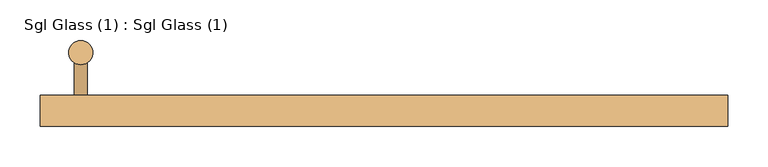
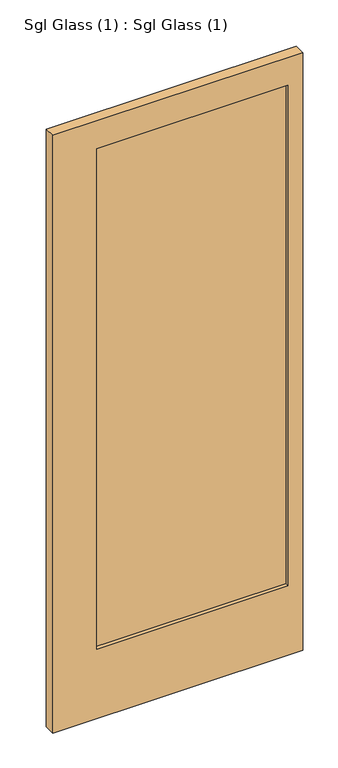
"""IFC4 building model written with IfcOpenShell, lengths in millimetres: door geometry, Sgl Glass (1) : Sgl Glass (1)."""

from ifc_helpers import new_model, si_unit, point, frame, frame_2d, origin, place, context, project, spatial, polyline, circle_curve, trimmed, segment, composite_curve, outline, extrude, source, transform, mapped, element, save


def sgl_glass_1_sgl_glass_1_6551031a(model_context):
    return source(origin(), model_context, "Body", "SweptSolid", [
        extrude(outline(polyline([(375.0, -2.0), (375.0, -12.0), (-350.0, -12.0), (-350.0, -2.0), (375.0, -2.0)])), frame((0.0, 0.0, 250.0), z_axis=(0.0, 0.0, 1.0), x_axis=(1.0, 0.0, 0.0)), (0.0, 0.0, 1.0), 1800.0),
        extrude(outline(composite_curve([segment(trimmed(circle_curve(frame_2d((-375.0, 66.0)), 15.0), [point((-375.0, 51.0))], [point((-375.0, 81.0))], False, "CARTESIAN"), True, "CONTINUOUS"), segment(trimmed(circle_curve(frame_2d((-375.0, 66.0)), 15.0), [point((-375.0, 81.0))], [point((-375.0, 51.0))], False, "CARTESIAN"), True, "CONTINUOUS")], self_intersect=False)), frame((0.0, 0.0, 650.0), z_axis=(0.0, 0.0, 1.0), x_axis=(1.0, 0.0, 0.0)), (0.0, 0.0, 1.0), 900.0),
        extrude(outline(composite_curve([segment(trimmed(circle_curve(frame_2d((750.0, -375.0)), 8.0), [point((750.0, -367.0))], [point((750.0, -383.0))], False, "CARTESIAN"), True, "CONTINUOUS"), segment(trimmed(circle_curve(frame_2d((750.0, -375.0)), 8.0), [point((750.0, -383.0))], [point((750.0, -367.0))], False, "CARTESIAN"), True, "CONTINUOUS")], self_intersect=False)), frame((0.0, 13.0, 0.0), z_axis=(0.0, 1.0, 0.0), x_axis=(0.0, 0.0, 1.0)), (0.0, 0.0, 1.0), 53.0),
        extrude(outline(composite_curve([segment(trimmed(circle_curve(frame_2d((1450.0, -375.0)), 8.0), [point((1450.0, -367.0))], [point((1450.0, -383.0))], False, "CARTESIAN"), True, "CONTINUOUS"), segment(trimmed(circle_curve(frame_2d((1450.0, -375.0)), 8.0), [point((1450.0, -383.0))], [point((1450.0, -367.0))], False, "CARTESIAN"), True, "CONTINUOUS")], self_intersect=False)), frame((0.0, 13.0, 0.0), z_axis=(0.0, 1.0, 0.0), x_axis=(0.0, 0.0, 1.0)), (0.0, 0.0, 1.0), 53.0),
        extrude(outline(polyline([(0.0, -425.0), (0.0, 425.0), (2150.0, 425.0), (2150.0, -425.0), (0.0, -425.0)]), holes=[polyline([(2050.0, 375.0), (250.0, 375.0), (250.0, -275.0), (2050.0, -275.0), (2050.0, 375.0)])]), frame((0.0, -25.0, 0.0), z_axis=(0.0, 1.0, 0.0), x_axis=(0.0, 0.0, 1.0)), (0.0, 0.0, 1.0), 38.0),
    ])


if __name__ == "__main__":
    model = new_model("IFC4")
    model_context = context("Model", 3, world=origin())
    ifc_project = project(units=[si_unit("LENGTHUNIT", "METRE", prefix="MILLI")], contexts=[model_context])
    site = spatial("IfcSite", under=ifc_project)
    building = spatial("IfcBuilding", under=site)
    placement = place(None, origin())
    sgl_glass_1_sgl_glass_1_shape = sgl_glass_1_sgl_glass_1_6551031a(model_context)
    element("IfcDoor", 1, ObjectType="Sgl Glass (1) : Sgl Glass (1)", at=placement, inside=building, context=model_context, shape_type="MappedRepresentation", body=[
        mapped(sgl_glass_1_sgl_glass_1_shape, transform((0.0, 0.0, 0.0), x_axis=(1.0, 0.0, 0.0), y_axis=(0.0, 1.0, 0.0), z_axis=(0.0, 0.0, 1.0))),
    ])
    save(model, "model.ifc")
